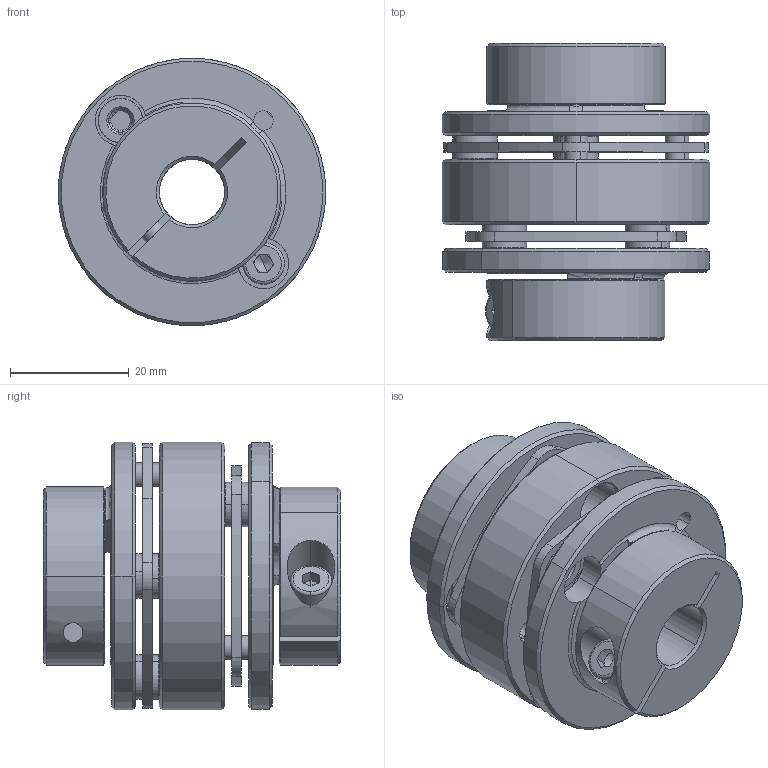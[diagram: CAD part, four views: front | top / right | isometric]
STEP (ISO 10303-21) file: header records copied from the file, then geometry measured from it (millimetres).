
FILE_DESCRIPTION (( 'STEP AP203' ), '1' );
FILE_NAME ('LE2-B-D45L50-11-11.STEP', '2021-11-01T06:28:20', ( '' ), ( '' ), 'SwSTEP 2.0', 'SolidWorks 2018', '' );
FILE_SCHEMA (( 'CONFIG_CONTROL_DESIGN' ));
Length unit declared in the file: millimetre
Products named in the file (1): LE2-B-D45L50-11-11
Bounding box: 45 x 50 x 45 mm (x, y, z)
Volume: 36954.5 mm3; surface area: 23912.8 mm2
Topology: 1 solids, 5 shells, 494 faces, 1194 edges, 732 vertices
Faces by surface type: cylinder 178, cone 154, plane 142, torus 18, bspline 2
Entity records: 14963 total; most frequent: CARTESIAN_POINT 2891, DIRECTION 2748, ORIENTED_EDGE 2364, EDGE_CURVE 1182, AXIS2_PLACEMENT_3D 1123, VERTEX_POINT 732, CIRCLE 630, EDGE_LOOP 586
